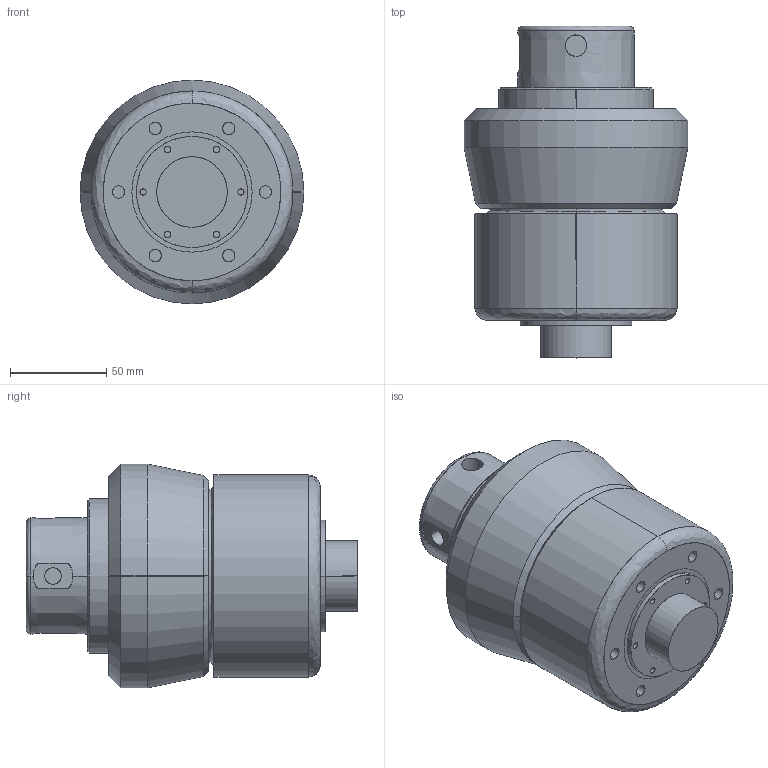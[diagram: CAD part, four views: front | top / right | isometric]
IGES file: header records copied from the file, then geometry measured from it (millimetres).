
Start section: SolidWorks IGES file using analytic representation for surfaces
Global section: file name: \\server\Users\Karen.Bodily\My Documents\defeatured\DBH030 TOP MOUNT.IGS; native system: SolidWorks 2012; preprocessor: SolidWorks 2012; author: karen.bodily; date: 130424.093957; units: inch
Bounding box: 116.08 x 172.11 x 116.08 mm (x, y, z)
Surface area: 72335.4 mm2 (no closed solid volume)
Topology: 0 solids, 0 shells, 123 faces, 3301 edges, 3301 vertices
Faces by surface type: revolution 81, bspline 42
